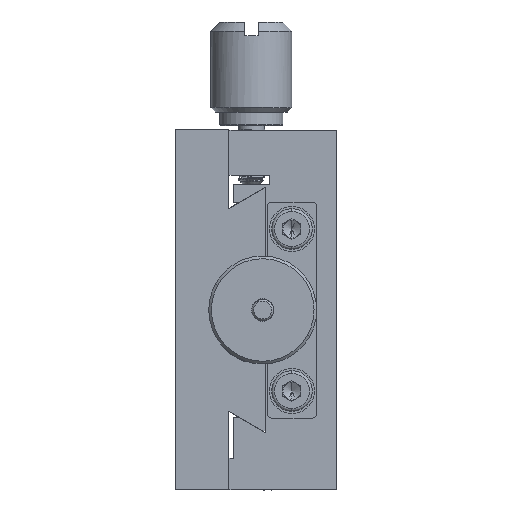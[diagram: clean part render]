
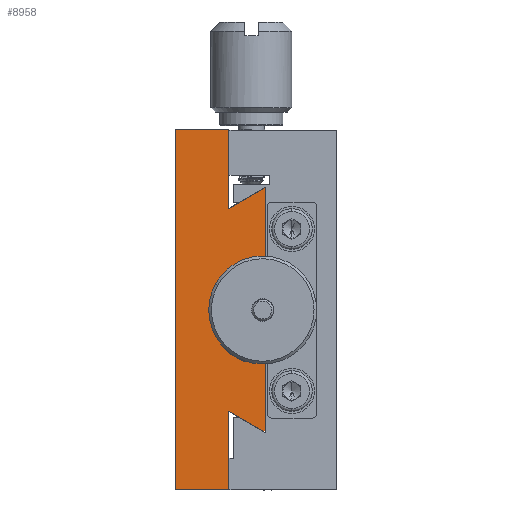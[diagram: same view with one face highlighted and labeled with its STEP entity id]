
A CAD part, left-side view. The second image highlights one B-rep face of the part: STEP entity #8958.
In plain terms, the highlighted planar face has unit normal (-1, 0, 0).
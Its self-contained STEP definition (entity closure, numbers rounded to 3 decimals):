
#257 = EDGE_CURVE ( 'NONE', #45153, #33841, #37044, .T. ) ;
#269 = CARTESIAN_POINT ( 'NONE',  ( -18.869, 0., -3.75 ) ) ;
#635 = DIRECTION ( 'NONE',  ( 0., -0.866, 0.5 ) ) ;
#1694 = LINE ( 'NONE', #42825, #7367 ) ;
#1751 = LINE ( 'NONE', #43132, #24661 ) ;
#2478 = CARTESIAN_POINT ( 'NONE',  ( -18.869, 4., 3.75 ) ) ;
#2592 = VECTOR ( 'NONE', #7394, 1000. ) ;
#2618 = CARTESIAN_POINT ( 'NONE',  ( -18.869, 0., 13.5 ) ) ;
#2749 = EDGE_CURVE ( 'NONE', #43539, #7195, #10122, .T. ) ;
#2914 = CARTESIAN_POINT ( 'NONE',  ( -18.869, 0., 13.5 ) ) ;
#3957 = CARTESIAN_POINT ( 'NONE',  ( -18.869, 0., 3.75 ) ) ;
#4098 = ORIENTED_EDGE ( 'NONE', *, *, #2749, .F. ) ;
#4330 = DIRECTION ( 'NONE',  ( 0., 0.866, 0.5 ) ) ;
#4357 = ORIENTED_EDGE ( 'NONE', *, *, #34555, .F. ) ;
#4445 = CARTESIAN_POINT ( 'NONE',  ( -18.869, 0., -13.5 ) ) ;
#6036 = DIRECTION ( 'NONE',  ( 0., 0., 1. ) ) ;
#6373 = DIRECTION ( 'NONE',  ( 0., 1., 0. ) ) ;
#7195 = VERTEX_POINT ( 'NONE', #31240 ) ;
#7367 = VECTOR ( 'NONE', #16902, 1000. ) ;
#7394 = DIRECTION ( 'NONE',  ( 0., -1., 0. ) ) ;
#7590 = CARTESIAN_POINT ( 'NONE',  ( -18.869, 4.1, -11.227 ) ) ;
#7774 = CARTESIAN_POINT ( 'NONE',  ( -18.869, 0.164, 13.5 ) ) ;
#8058 = CARTESIAN_POINT ( 'NONE',  ( -18.869, 0.164, -13.5 ) ) ;
#8177 = LINE ( 'NONE', #4445, #9756 ) ;
#8272 = DIRECTION ( 'NONE',  ( 0., -1., 0. ) ) ;
#8406 = CARTESIAN_POINT ( 'NONE',  ( -18.869, 4.1, 20. ) ) ;
#8676 = ORIENTED_EDGE ( 'NONE', *, *, #12772, .F. ) ;
#8958 = ADVANCED_FACE ( 'NONE', ( #33851 ), #15177, .F. ) ;
#9756 = VECTOR ( 'NONE', #49319, 1000. ) ;
#10122 = LINE ( 'NONE', #40522, #24196 ) ;
#11357 = ORIENTED_EDGE ( 'NONE', *, *, #26129, .F. ) ;
#12772 = EDGE_CURVE ( 'NONE', #25134, #21285, #19558, .T. ) ;
#13736 = VECTOR ( 'NONE', #28297, 1000. ) ;
#14091 = LINE ( 'NONE', #2618, #34072 ) ;
#15177 = PLANE ( 'NONE',  #38422 ) ;
#15618 = LINE ( 'NONE', #41539, #2592 ) ;
#15884 = LINE ( 'NONE', #31052, #13736 ) ;
#16210 = EDGE_CURVE ( 'NONE', #37112, #31695, #14091, .T. ) ;
#16460 = VECTOR ( 'NONE', #6036, 1000. ) ;
#16902 = DIRECTION ( 'NONE',  ( 0., 0., -1. ) ) ;
#17073 = VECTOR ( 'NONE', #8272, 1000. ) ;
#17140 = ORIENTED_EDGE ( 'NONE', *, *, #16210, .F. ) ;
#17228 = VECTOR ( 'NONE', #4330, 1000. ) ;
#18171 = CARTESIAN_POINT ( 'NONE',  ( -18.869, 0., 0. ) ) ;
#19558 = LINE ( 'NONE', #34748, #36740 ) ;
#20151 = EDGE_CURVE ( 'NONE', #21285, #45153, #34918, .T. ) ;
#20343 = CARTESIAN_POINT ( 'NONE',  ( -18.869, 0., 13.5 ) ) ;
#21166 = DIRECTION ( 'NONE',  ( 0., 1., 0. ) ) ;
#21285 = VERTEX_POINT ( 'NONE', #45415 ) ;
#22187 = ORIENTED_EDGE ( 'NONE', *, *, #45401, .F. ) ;
#22868 = DIRECTION ( 'NONE',  ( 1., 0., 0. ) ) ;
#23916 = ORIENTED_EDGE ( 'NONE', *, *, #257, .F. ) ;
#24196 = VECTOR ( 'NONE', #6373, 1000. ) ;
#24467 = VECTOR ( 'NONE', #26748, 1000. ) ;
#24483 = LINE ( 'NONE', #32918, #16460 ) ;
#24661 = VECTOR ( 'NONE', #21166, 1000. ) ;
#25134 = VERTEX_POINT ( 'NONE', #38956 ) ;
#26122 = DIRECTION ( 'NONE',  ( 0., 0., -1. ) ) ;
#26129 = EDGE_CURVE ( 'NONE', #31695, #37447, #8177, .T. ) ;
#26314 = EDGE_CURVE ( 'NONE', #38469, #45311, #1694, .T. ) ;
#26748 = DIRECTION ( 'NONE',  ( 0., 0., -1. ) ) ;
#27990 = EDGE_LOOP ( 'NONE', ( #17140, #34313, #44904, #48806, #23916, #37092, #8676, #32755, #4357, #31879, #4098, #22187, #34905, #11357 ) ) ;
#28297 = DIRECTION ( 'NONE',  ( 0., -1., 0. ) ) ;
#30330 = CARTESIAN_POINT ( 'NONE',  ( -18.869, 0.164, -13.5 ) ) ;
#30448 = VERTEX_POINT ( 'NONE', #39097 ) ;
#30797 = VERTEX_POINT ( 'NONE', #45282 ) ;
#30961 = CARTESIAN_POINT ( 'NONE',  ( -18.869, 4.1, -20. ) ) ;
#31052 = CARTESIAN_POINT ( 'NONE',  ( -18.869, 4., -3.75 ) ) ;
#31240 = CARTESIAN_POINT ( 'NONE',  ( -18.869, 10., -20. ) ) ;
#31695 = VERTEX_POINT ( 'NONE', #39598 ) ;
#31879 = ORIENTED_EDGE ( 'NONE', *, *, #43664, .F. ) ;
#32078 = EDGE_CURVE ( 'NONE', #45311, #37112, #15884, .T. ) ;
#32755 = ORIENTED_EDGE ( 'NONE', *, *, #48983, .F. ) ;
#32918 = CARTESIAN_POINT ( 'NONE',  ( -18.869, 10., -20. ) ) ;
#32991 = DIRECTION ( 'NONE',  ( 0., 0., -1. ) ) ;
#33293 = DIRECTION ( 'NONE',  ( 0., 0., -1. ) ) ;
#33841 = VERTEX_POINT ( 'NONE', #3957 ) ;
#33851 = FACE_OUTER_BOUND ( 'NONE', #27990, .T. ) ;
#34072 = VECTOR ( 'NONE', #32991, 1000. ) ;
#34313 = ORIENTED_EDGE ( 'NONE', *, *, #32078, .F. ) ;
#34555 = EDGE_CURVE ( 'NONE', #30448, #30797, #15618, .T. ) ;
#34748 = CARTESIAN_POINT ( 'NONE',  ( -18.869, 4.1, 11.227 ) ) ;
#34805 = DIRECTION ( 'NONE',  ( 0., 0., -1. ) ) ;
#34905 = ORIENTED_EDGE ( 'NONE', *, *, #43550, .F. ) ;
#34918 = LINE ( 'NONE', #7774, #17073 ) ;
#36740 = VECTOR ( 'NONE', #635, 1000. ) ;
#37044 = LINE ( 'NONE', #2914, #47648 ) ;
#37092 = ORIENTED_EDGE ( 'NONE', *, *, #20151, .F. ) ;
#37112 = VERTEX_POINT ( 'NONE', #269 ) ;
#37447 = VERTEX_POINT ( 'NONE', #30330 ) ;
#38422 = AXIS2_PLACEMENT_3D ( 'NONE', #18171, #22868, #26122 ) ;
#38441 = CARTESIAN_POINT ( 'NONE',  ( -18.869, 4.1, -11.227 ) ) ;
#38469 = VERTEX_POINT ( 'NONE', #2478 ) ;
#38802 = LINE ( 'NONE', #8406, #39743 ) ;
#38956 = CARTESIAN_POINT ( 'NONE',  ( -18.869, 4.1, 11.227 ) ) ;
#39097 = CARTESIAN_POINT ( 'NONE',  ( -18.869, 10., 20. ) ) ;
#39598 = CARTESIAN_POINT ( 'NONE',  ( -18.869, 0., -13.5 ) ) ;
#39743 = VECTOR ( 'NONE', #34805, 1000. ) ;
#40522 = CARTESIAN_POINT ( 'NONE',  ( -18.869, 4.1, -20. ) ) ;
#40924 = VERTEX_POINT ( 'NONE', #38441 ) ;
#41539 = CARTESIAN_POINT ( 'NONE',  ( -18.869, 10., 20. ) ) ;
#42207 = LINE ( 'NONE', #8058, #17228 ) ;
#42825 = CARTESIAN_POINT ( 'NONE',  ( -18.869, 4., 3.75 ) ) ;
#42950 = EDGE_CURVE ( 'NONE', #33841, #38469, #1751, .T. ) ;
#43132 = CARTESIAN_POINT ( 'NONE',  ( -18.869, 0., 3.75 ) ) ;
#43539 = VERTEX_POINT ( 'NONE', #30961 ) ;
#43550 = EDGE_CURVE ( 'NONE', #37447, #40924, #42207, .T. ) ;
#43664 = EDGE_CURVE ( 'NONE', #7195, #30448, #24483, .T. ) ;
#44904 = ORIENTED_EDGE ( 'NONE', *, *, #26314, .F. ) ;
#45153 = VERTEX_POINT ( 'NONE', #20343 ) ;
#45282 = CARTESIAN_POINT ( 'NONE',  ( -18.869, 4.1, 20. ) ) ;
#45311 = VERTEX_POINT ( 'NONE', #48230 ) ;
#45401 = EDGE_CURVE ( 'NONE', #40924, #43539, #45716, .T. ) ;
#45415 = CARTESIAN_POINT ( 'NONE',  ( -18.869, 0.164, 13.5 ) ) ;
#45716 = LINE ( 'NONE', #7590, #24467 ) ;
#47648 = VECTOR ( 'NONE', #33293, 1000. ) ;
#48230 = CARTESIAN_POINT ( 'NONE',  ( -18.869, 4., -3.75 ) ) ;
#48806 = ORIENTED_EDGE ( 'NONE', *, *, #42950, .F. ) ;
#48983 = EDGE_CURVE ( 'NONE', #30797, #25134, #38802, .T. ) ;
#49319 = DIRECTION ( 'NONE',  ( 0., 1., 0. ) ) ;
